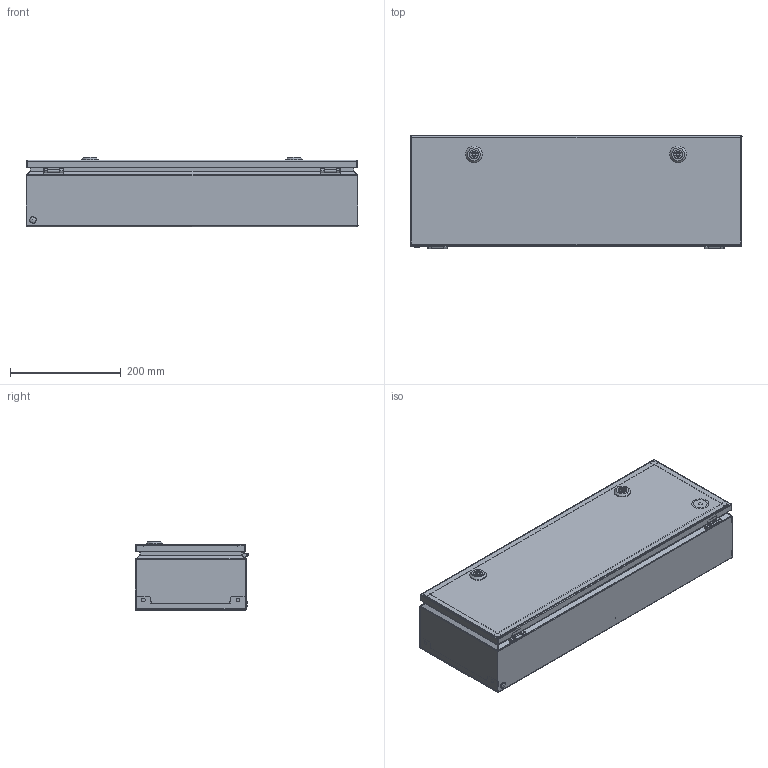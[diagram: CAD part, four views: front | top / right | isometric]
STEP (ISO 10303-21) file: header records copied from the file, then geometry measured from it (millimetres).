
FILE_DESCRIPTION (( 'STEP AP214' ), '1' );
FILE_NAME ('CCS 20.60.12-JG Ñèãíàëüíûé øêàô÷èê.STEP', '2023-04-11T10:01:40', ( '' ), ( '' ), 'SwSTEP 2.0', 'SolidWorks 2019', '' );
FILE_SCHEMA (( 'AUTOMOTIVE_DESIGN' ));
Length unit declared in the file: millimetre
Products named in the file (1): CCS 20.60.12-JG Ñèãíàëüíûé øêàô÷èê
Bounding box: 600 x 204.51 x 125.19 mm (x, y, z)
Volume: 913144.7 mm3; surface area: 1242516.2 mm2
Topology: 31 solids, 31 shells, 1900 faces, 4999 edges, 3118 vertices
Faces by surface type: plane 859, cylinder 692, bspline 172, cone 132, torus 44, sphere 1
Entity records: 98151 total; most frequent: CARTESIAN_POINT 31524, ORIENTED_EDGE 9880, DIRECTION 8950, EDGE_CURVE 4940, AXIS2_PLACEMENT_3D 3135, VERTEX_POINT 3116, VECTOR 2680, LINE 2680
